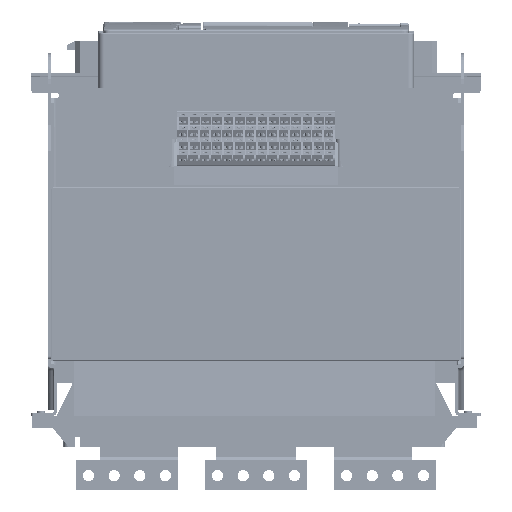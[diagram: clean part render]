
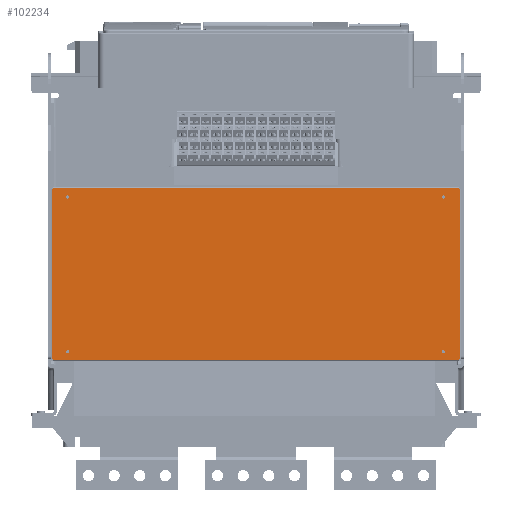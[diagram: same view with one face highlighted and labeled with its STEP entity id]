
A CAD part, front view. The second image highlights one B-rep face of the part: STEP entity #102234.
In plain terms, the highlighted planar face has unit normal (0, -1, 0) as drawn and (0, 0, -1) by its records, which use the part's own axes.
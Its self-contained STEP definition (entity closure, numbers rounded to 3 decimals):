
#4856=FACE_BOUND('',#12507,.T.);
#4857=FACE_BOUND('',#12508,.T.);
#4858=FACE_BOUND('',#12509,.T.);
#4859=FACE_BOUND('',#12510,.T.);
#6740=FACE_OUTER_BOUND('',#12506,.T.);
#12506=EDGE_LOOP('',(#74780,#74781,#74782,#74783,#74784,#74785,#74786,#74787,
#74788,#74789,#74790,#74791));
#12507=EDGE_LOOP('',(#74792));
#12508=EDGE_LOOP('',(#74793));
#12509=EDGE_LOOP('',(#74794));
#12510=EDGE_LOOP('',(#74795));
#17742=CIRCLE('',#109194,1.6);
#17743=CIRCLE('',#109195,1.6);
#17744=CIRCLE('',#109196,1.6);
#17745=CIRCLE('',#109197,1.6);
#23535=LINE('',#154059,#34358);
#23536=LINE('',#154061,#34359);
#23537=LINE('',#154063,#34360);
#23538=LINE('',#154065,#34361);
#23539=LINE('',#154067,#34362);
#23540=LINE('',#154069,#34363);
#23541=LINE('',#154071,#34364);
#23542=LINE('',#154073,#34365);
#23543=LINE('',#154075,#34366);
#23544=LINE('',#154077,#34367);
#23545=LINE('',#154079,#34368);
#23546=LINE('',#154080,#34369);
#34358=VECTOR('',#123602,166.);
#34359=VECTOR('',#123603,1.);
#34360=VECTOR('',#123604,1.);
#34361=VECTOR('',#123605,397.);
#34362=VECTOR('',#123606,1.);
#34363=VECTOR('',#123607,1.);
#34364=VECTOR('',#123608,166.);
#34365=VECTOR('',#123609,1.);
#34366=VECTOR('',#123610,1.);
#34367=VECTOR('',#123611,397.);
#34368=VECTOR('',#123612,1.);
#34369=VECTOR('',#123613,1.);
#44512=VERTEX_POINT('',#154057);
#44513=VERTEX_POINT('',#154058);
#44514=VERTEX_POINT('',#154060);
#44515=VERTEX_POINT('',#154062);
#44516=VERTEX_POINT('',#154064);
#44517=VERTEX_POINT('',#154066);
#44518=VERTEX_POINT('',#154068);
#44519=VERTEX_POINT('',#154070);
#44520=VERTEX_POINT('',#154072);
#44521=VERTEX_POINT('',#154074);
#44522=VERTEX_POINT('',#154076);
#44523=VERTEX_POINT('',#154078);
#44524=VERTEX_POINT('',#154081);
#44525=VERTEX_POINT('',#154083);
#44526=VERTEX_POINT('',#154085);
#44527=VERTEX_POINT('',#154087);
#55691=EDGE_CURVE('',#44512,#44513,#23535,.T.);
#55692=EDGE_CURVE('',#44513,#44514,#23536,.T.);
#55693=EDGE_CURVE('',#44515,#44514,#23537,.T.);
#55694=EDGE_CURVE('',#44515,#44516,#23538,.T.);
#55695=EDGE_CURVE('',#44516,#44517,#23539,.T.);
#55696=EDGE_CURVE('',#44518,#44517,#23540,.T.);
#55697=EDGE_CURVE('',#44518,#44519,#23541,.T.);
#55698=EDGE_CURVE('',#44519,#44520,#23542,.T.);
#55699=EDGE_CURVE('',#44521,#44520,#23543,.T.);
#55700=EDGE_CURVE('',#44521,#44522,#23544,.T.);
#55701=EDGE_CURVE('',#44522,#44523,#23545,.T.);
#55702=EDGE_CURVE('',#44512,#44523,#23546,.T.);
#55703=EDGE_CURVE('',#44524,#44524,#17742,.T.);
#55704=EDGE_CURVE('',#44525,#44525,#17743,.T.);
#55705=EDGE_CURVE('',#44526,#44526,#17744,.T.);
#55706=EDGE_CURVE('',#44527,#44527,#17745,.T.);
#74780=ORIENTED_EDGE('',*,*,#55691,.T.);
#74781=ORIENTED_EDGE('',*,*,#55692,.T.);
#74782=ORIENTED_EDGE('',*,*,#55693,.F.);
#74783=ORIENTED_EDGE('',*,*,#55694,.T.);
#74784=ORIENTED_EDGE('',*,*,#55695,.T.);
#74785=ORIENTED_EDGE('',*,*,#55696,.F.);
#74786=ORIENTED_EDGE('',*,*,#55697,.T.);
#74787=ORIENTED_EDGE('',*,*,#55698,.T.);
#74788=ORIENTED_EDGE('',*,*,#55699,.F.);
#74789=ORIENTED_EDGE('',*,*,#55700,.T.);
#74790=ORIENTED_EDGE('',*,*,#55701,.T.);
#74791=ORIENTED_EDGE('',*,*,#55702,.F.);
#74792=ORIENTED_EDGE('',*,*,#55703,.F.);
#74793=ORIENTED_EDGE('',*,*,#55704,.F.);
#74794=ORIENTED_EDGE('',*,*,#55705,.F.);
#74795=ORIENTED_EDGE('',*,*,#55706,.F.);
#98281=PLANE('',#109193);
#102234=ADVANCED_FACE('',(#6740,#4856,#4857,#4858,#4859),#98281,.F.);
#109193=AXIS2_PLACEMENT_3D('',#154056,#123600,#123601);
#109194=AXIS2_PLACEMENT_3D('',#154082,#123614,#123615);
#109195=AXIS2_PLACEMENT_3D('',#154084,#123616,#123617);
#109196=AXIS2_PLACEMENT_3D('',#154086,#123618,#123619);
#109197=AXIS2_PLACEMENT_3D('',#154088,#123620,#123621);
#123600=DIRECTION('center_axis',(0.,0.,1.));
#123601=DIRECTION('ref_axis',(1.,0.,0.));
#123602=DIRECTION('',(0.,-1.,0.));
#123603=DIRECTION('',(-1.,0.,0.));
#123604=DIRECTION('',(0.,1.,0.));
#123605=DIRECTION('',(-1.,0.,0.));
#123606=DIRECTION('',(0.,1.,0.));
#123607=DIRECTION('',(1.,0.,0.));
#123608=DIRECTION('',(0.,1.,0.));
#123609=DIRECTION('',(1.,0.,0.));
#123610=DIRECTION('',(0.,-1.,0.));
#123611=DIRECTION('',(1.,0.,0.));
#123612=DIRECTION('',(0.,-1.,0.));
#123613=DIRECTION('',(-1.,0.,0.));
#123614=DIRECTION('center_axis',(0.,0.,-1.));
#123615=DIRECTION('ref_axis',(-1.,0.,0.));
#123616=DIRECTION('center_axis',(0.,0.,-1.));
#123617=DIRECTION('ref_axis',(-1.,0.,0.));
#123618=DIRECTION('center_axis',(0.,0.,-1.));
#123619=DIRECTION('ref_axis',(-1.,0.,0.));
#123620=DIRECTION('center_axis',(0.,0.,-1.));
#123621=DIRECTION('ref_axis',(-1.,0.,0.));
#154056=CARTESIAN_POINT('Origin',(0.,0.,0.));
#154057=CARTESIAN_POINT('',(199.5,83.,0.));
#154058=CARTESIAN_POINT('',(199.5,-83.,0.));
#154059=CARTESIAN_POINT('',(199.5,83.,0.));
#154060=CARTESIAN_POINT('',(198.5,-83.,0.));
#154061=CARTESIAN_POINT('',(199.5,-83.,0.));
#154062=CARTESIAN_POINT('',(198.5,-84.,0.));
#154063=CARTESIAN_POINT('',(198.5,-84.,0.));
#154064=CARTESIAN_POINT('',(-198.5,-84.,0.));
#154065=CARTESIAN_POINT('',(198.5,-84.,0.));
#154066=CARTESIAN_POINT('',(-198.5,-83.,0.));
#154067=CARTESIAN_POINT('',(-198.5,-84.,0.));
#154068=CARTESIAN_POINT('',(-199.5,-83.,0.));
#154069=CARTESIAN_POINT('',(-199.5,-83.,0.));
#154070=CARTESIAN_POINT('',(-199.5,83.,0.));
#154071=CARTESIAN_POINT('',(-199.5,-83.,0.));
#154072=CARTESIAN_POINT('',(-198.5,83.,0.));
#154073=CARTESIAN_POINT('',(-199.5,83.,0.));
#154074=CARTESIAN_POINT('',(-198.5,84.,0.));
#154075=CARTESIAN_POINT('',(-198.5,84.,0.));
#154076=CARTESIAN_POINT('',(198.5,84.,0.));
#154077=CARTESIAN_POINT('',(-198.5,84.,0.));
#154078=CARTESIAN_POINT('',(198.5,83.,0.));
#154079=CARTESIAN_POINT('',(198.5,84.,0.));
#154080=CARTESIAN_POINT('',(199.5,83.,0.));
#154081=CARTESIAN_POINT('',(184.6,76.,0.));
#154082=CARTESIAN_POINT('Origin',(183.,76.,0.));
#154083=CARTESIAN_POINT('',(-182.4,-75.,0.));
#154084=CARTESIAN_POINT('Origin',(-184.,-75.,0.));
#154085=CARTESIAN_POINT('',(184.6,-75.,0.));
#154086=CARTESIAN_POINT('Origin',(183.,-75.,0.));
#154087=CARTESIAN_POINT('',(-182.4,76.,0.));
#154088=CARTESIAN_POINT('Origin',(-184.,76.,0.));
